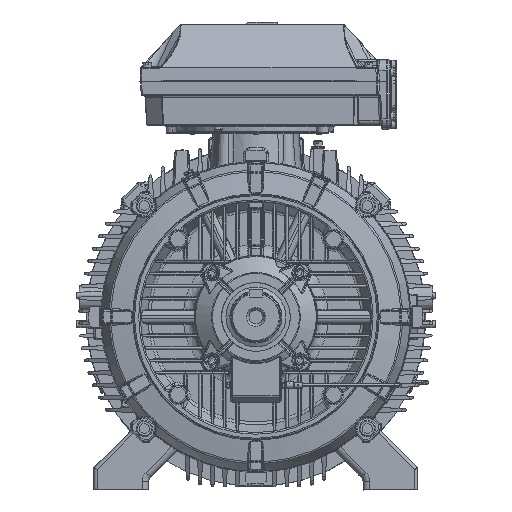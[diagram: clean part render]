
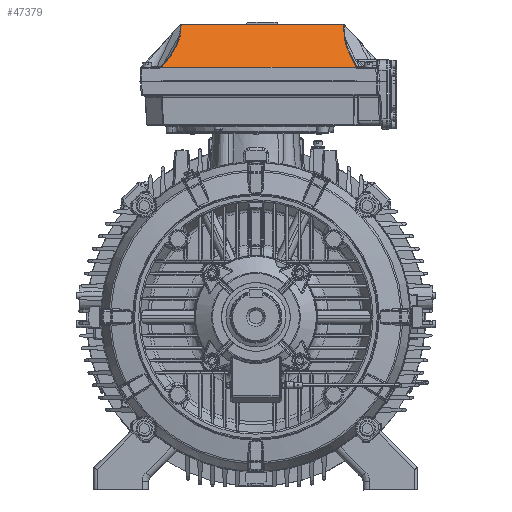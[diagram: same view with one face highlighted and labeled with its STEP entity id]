
A CAD part, front view. The second image highlights one B-rep face of the part: STEP entity #47379.
In plain terms, the highlighted planar face has unit normal (0, -0.734, 0.679).
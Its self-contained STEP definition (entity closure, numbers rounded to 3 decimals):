
#41847=PLANE('',#135858);
#47379=ADVANCED_FACE('',(#53928),#41847,.F.);
#53928=FACE_OUTER_BOUND('',#59677,.T.);
#59677=EDGE_LOOP('',(#100694,#100695,#100696,#100697,#100698,#100699,#100700,
#100701,#100702,#100703));
#64209=LINE('',#274662,#68586);
#64210=LINE('',#274758,#68587);
#64211=LINE('',#274773,#68588);
#64212=LINE('',#274775,#68589);
#64213=LINE('',#274777,#68590);
#68586=VECTOR('',#153368,1.);
#68587=VECTOR('',#153375,1.);
#68588=VECTOR('',#153376,1.);
#68589=VECTOR('',#153377,1.);
#68590=VECTOR('',#153378,1.);
#74342=B_SPLINE_CURVE_WITH_KNOTS('',3,(#274720,#274721,#274722,#274723,
#274724,#274725),.UNSPECIFIED.,.F.,.F.,(4,2,4),(0.,0.642,1.),
 .UNSPECIFIED.);
#74343=B_SPLINE_CURVE_WITH_KNOTS('',3,(#274753,#274754,#274755,#274756),
 .UNSPECIFIED.,.F.,.F.,(4,4),(0.,1.),.UNSPECIFIED.);
#74344=B_SPLINE_CURVE_WITH_KNOTS('',3,(#274760,#274761,#274762,#274763,
#274764,#274765,#274766,#274767,#274768,#274769,#274770,#274771),
 .UNSPECIFIED.,.F.,.F.,(4,2,2,2,2,4),(0.,0.249,0.499,
0.749,0.875,1.),.UNSPECIFIED.);
#74345=B_SPLINE_CURVE_WITH_KNOTS('',3,(#274779,#274780,#274781,#274782,
#274783,#274784,#274785,#274786,#274787,#274788,#274789,#274790,#274791,
#274792,#274793,#274794,#274795,#274796,#274797,#274798),.UNSPECIFIED.,
 .F.,.F.,(4,2,2,2,2,2,2,2,2,4),(0.,0.063,0.126,
0.251,0.376,0.501,0.626,0.751,
0.875,1.),.UNSPECIFIED.);
#74346=B_SPLINE_CURVE_WITH_KNOTS('',3,(#274800,#274801,#274802,#274803),
 .UNSPECIFIED.,.F.,.F.,(4,4),(0.,1.),.UNSPECIFIED.);
#100694=ORIENTED_EDGE('',*,*,#125087,.T.);
#100695=ORIENTED_EDGE('',*,*,#125088,.T.);
#100696=ORIENTED_EDGE('',*,*,#125089,.T.);
#100697=ORIENTED_EDGE('',*,*,#125090,.T.);
#100698=ORIENTED_EDGE('',*,*,#125091,.T.);
#100699=ORIENTED_EDGE('',*,*,#125092,.T.);
#100700=ORIENTED_EDGE('',*,*,#125093,.T.);
#100701=ORIENTED_EDGE('',*,*,#125094,.T.);
#100702=ORIENTED_EDGE('',*,*,#125084,.T.);
#100703=ORIENTED_EDGE('',*,*,#125078,.T.);
#111294=VERTEX_POINT('',#274661);
#111295=VERTEX_POINT('',#274663);
#111299=VERTEX_POINT('',#274726);
#111301=VERTEX_POINT('',#274757);
#111302=VERTEX_POINT('',#274759);
#111303=VERTEX_POINT('',#274772);
#111304=VERTEX_POINT('',#274774);
#111305=VERTEX_POINT('',#274776);
#111306=VERTEX_POINT('',#274778);
#111307=VERTEX_POINT('',#274799);
#125078=EDGE_CURVE('',#111295,#111294,#64209,.T.);
#125084=EDGE_CURVE('',#111299,#111295,#74342,.T.);
#125087=EDGE_CURVE('',#111294,#111301,#74343,.T.);
#125088=EDGE_CURVE('',#111301,#111302,#64210,.T.);
#125089=EDGE_CURVE('',#111302,#111303,#74344,.T.);
#125090=EDGE_CURVE('',#111303,#111304,#64211,.T.);
#125091=EDGE_CURVE('',#111304,#111305,#64212,.T.);
#125092=EDGE_CURVE('',#111305,#111306,#64213,.T.);
#125093=EDGE_CURVE('',#111306,#111307,#74345,.T.);
#125094=EDGE_CURVE('',#111307,#111299,#74346,.T.);
#135858=AXIS2_PLACEMENT_3D('',#274804,#153379,#153380);
#153368=DIRECTION('',(1.,0.,0.));
#153375=DIRECTION('',(-0.339,0.639,0.691));
#153376=DIRECTION('',(-0.055,0.678,0.733));
#153377=DIRECTION('',(-1.,0.,0.));
#153378=DIRECTION('',(-0.055,-0.678,-0.733));
#153379=DIRECTION('',(0.,0.734,-0.679));
#153380=DIRECTION('',(-0.107,-0.675,-0.73));
#274661=CARTESIAN_POINT('',(182.858,-51.699,454.53));
#274662=CARTESIAN_POINT('',(-173.559,-51.699,454.53));
#274663=CARTESIAN_POINT('',(-173.559,-51.699,454.53));
#274720=CARTESIAN_POINT('',(-169.573,-49.256,457.174));
#274721=CARTESIAN_POINT('',(-170.27,-49.881,456.497));
#274722=CARTESIAN_POINT('',(-171.084,-50.445,455.887));
#274723=CARTESIAN_POINT('',(-172.481,-51.216,455.053));
#274724=CARTESIAN_POINT('',(-173.009,-51.471,454.777));
#274725=CARTESIAN_POINT('',(-173.559,-51.699,454.53));
#274726=CARTESIAN_POINT('',(-169.573,-49.256,457.174));
#274753=CARTESIAN_POINT('',(182.858,-51.699,454.53));
#274754=CARTESIAN_POINT('',(182.328,-51.281,454.982));
#274755=CARTESIAN_POINT('',(181.93,-50.783,455.521));
#274756=CARTESIAN_POINT('',(181.653,-50.263,456.084));
#274757=CARTESIAN_POINT('',(181.653,-50.263,456.084));
#274758=CARTESIAN_POINT('',(181.653,-50.263,456.084));
#274759=CARTESIAN_POINT('',(170.816,-29.868,478.147));
#274760=CARTESIAN_POINT('',(170.816,-29.868,478.147));
#274761=CARTESIAN_POINT('',(169.657,-27.687,480.507));
#274762=CARTESIAN_POINT('',(168.561,-25.491,482.883));
#274763=CARTESIAN_POINT('',(166.516,-21.065,487.671));
#274764=CARTESIAN_POINT('',(165.569,-18.835,490.083));
#274765=CARTESIAN_POINT('',(163.867,-14.337,494.949));
#274766=CARTESIAN_POINT('',(163.113,-12.068,497.404));
#274767=CARTESIAN_POINT('',(162.201,-8.635,501.118));
#274768=CARTESIAN_POINT('',(161.934,-7.484,502.362));
#274769=CARTESIAN_POINT('',(161.499,-5.173,504.863));
#274770=CARTESIAN_POINT('',(161.331,-4.011,506.119));
#274771=CARTESIAN_POINT('',(161.236,-2.847,507.379));
#274772=CARTESIAN_POINT('',(161.236,-2.847,507.379));
#274773=CARTESIAN_POINT('',(161.236,-2.847,507.379));
#274774=CARTESIAN_POINT('',(159.347,20.243,532.357));
#274775=CARTESIAN_POINT('',(159.347,20.243,532.357));
#274776=CARTESIAN_POINT('',(-136.08,20.243,532.357));
#274777=CARTESIAN_POINT('',(-136.08,20.243,532.357));
#274778=CARTESIAN_POINT('',(-137.371,4.463,515.287));
#274779=CARTESIAN_POINT('',(-137.371,4.463,515.287));
#274780=CARTESIAN_POINT('',(-137.471,3.245,513.969));
#274781=CARTESIAN_POINT('',(-137.667,2.032,512.657));
#274782=CARTESIAN_POINT('',(-138.187,-0.379,510.048));
#274783=CARTESIAN_POINT('',(-138.51,-1.577,508.753));
#274784=CARTESIAN_POINT('',(-139.617,-5.143,504.894));
#274785=CARTESIAN_POINT('',(-140.538,-7.492,502.353));
#274786=CARTESIAN_POINT('',(-142.61,-12.134,497.332));
#274787=CARTESIAN_POINT('',(-143.765,-14.427,494.851));
#274788=CARTESIAN_POINT('',(-146.252,-18.966,489.941));
#274789=CARTESIAN_POINT('',(-147.586,-21.211,487.512));
#274790=CARTESIAN_POINT('',(-150.402,-25.652,482.708));
#274791=CARTESIAN_POINT('',(-151.884,-27.848,480.333));
#274792=CARTESIAN_POINT('',(-154.985,-32.194,475.631));
#274793=CARTESIAN_POINT('',(-156.604,-34.344,473.305));
#274794=CARTESIAN_POINT('',(-159.975,-38.596,468.706));
#274795=CARTESIAN_POINT('',(-161.726,-40.698,466.432));
#274796=CARTESIAN_POINT('',(-165.365,-44.848,461.942));
#274797=CARTESIAN_POINT('',(-167.252,-46.896,459.727));
#274798=CARTESIAN_POINT('',(-169.213,-48.91,457.547));
#274799=CARTESIAN_POINT('',(-169.213,-48.91,457.547));
#274800=CARTESIAN_POINT('',(-169.213,-48.91,457.547));
#274801=CARTESIAN_POINT('',(-169.327,-49.028,457.42));
#274802=CARTESIAN_POINT('',(-169.448,-49.143,457.295));
#274803=CARTESIAN_POINT('',(-169.573,-49.256,457.174));
#274804=CARTESIAN_POINT('',(-196.616,-56.306,449.547));
